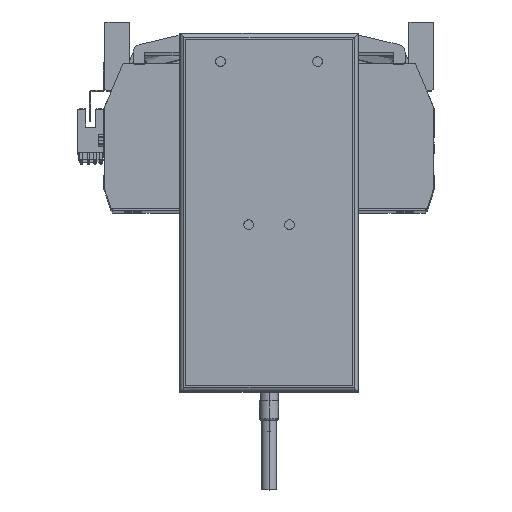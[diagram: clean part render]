
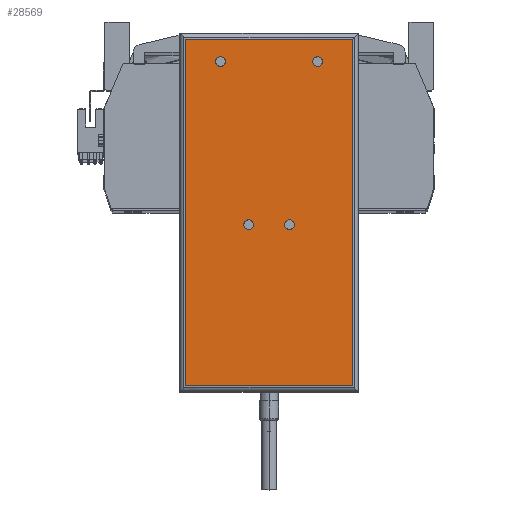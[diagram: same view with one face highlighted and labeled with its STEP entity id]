
A CAD part, top view. The second image highlights one B-rep face of the part: STEP entity #28569.
In plain terms, the highlighted planar face has unit normal (0, 0, 1) as drawn and (0, 0, -1) by its records, which use the part's own axes.
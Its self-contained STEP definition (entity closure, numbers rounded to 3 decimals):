
#548 = CIRCLE ( 'NONE', #22080, 2.5 ) ;
#571 = VECTOR ( 'NONE', #16782, 1000. ) ;
#1106 = ORIENTED_EDGE ( 'NONE', *, *, #11366, .T. ) ;
#1954 = CARTESIAN_POINT ( 'NONE',  ( -22.5, 77.75, 0. ) ) ;
#2923 = EDGE_LOOP ( 'NONE', ( #7942, #47275 ) ) ;
#3350 = CIRCLE ( 'NONE', #4645, 2.5 ) ;
#3509 = AXIS2_PLACEMENT_3D ( 'NONE', #47850, #47164, #31625 ) ;
#3654 = ORIENTED_EDGE ( 'NONE', *, *, #35723, .F. ) ;
#4507 = AXIS2_PLACEMENT_3D ( 'NONE', #5087, #25096, #32541 ) ;
#4645 = AXIS2_PLACEMENT_3D ( 'NONE', #24800, #20966, #24974 ) ;
#4830 = DIRECTION ( 'NONE',  ( -1., 0., 0. ) ) ;
#5087 = CARTESIAN_POINT ( 'NONE',  ( 10.5, -6.25, 0. ) ) ;
#5313 = CARTESIAN_POINT ( 'NONE',  ( 43., 89.25, 0. ) ) ;
#5934 = CARTESIAN_POINT ( 'NONE',  ( 8., -6.25, 0. ) ) ;
#7101 = DIRECTION ( 'NONE',  ( -1., 0., 0. ) ) ;
#7227 = VERTEX_POINT ( 'NONE', #29314 ) ;
#7230 = DIRECTION ( 'NONE',  ( 0., 0., -1. ) ) ;
#7272 = EDGE_CURVE ( 'NONE', #7227, #38202, #3350, .T. ) ;
#7351 = CARTESIAN_POINT ( 'NONE',  ( 43., -92.25, 0. ) ) ;
#7681 = VERTEX_POINT ( 'NONE', #8873 ) ;
#7942 = ORIENTED_EDGE ( 'NONE', *, *, #35407, .F. ) ;
#8249 = DIRECTION ( 'NONE',  ( 1., 0., 0. ) ) ;
#8873 = CARTESIAN_POINT ( 'NONE',  ( 43., -89.25, 0. ) ) ;
#10178 = ORIENTED_EDGE ( 'NONE', *, *, #24322, .T. ) ;
#10600 = CARTESIAN_POINT ( 'NONE',  ( -43., 89.25, 0. ) ) ;
#11366 = EDGE_CURVE ( 'NONE', #51060, #40373, #26545, .T. ) ;
#11612 = EDGE_LOOP ( 'NONE', ( #14616, #30410 ) ) ;
#11675 = EDGE_CURVE ( 'NONE', #32520, #28280, #48758, .T. ) ;
#12092 = VERTEX_POINT ( 'NONE', #49375 ) ;
#13502 = AXIS2_PLACEMENT_3D ( 'NONE', #43464, #7230, #31561 ) ;
#14052 = CIRCLE ( 'NONE', #37598, 2.5 ) ;
#14616 = ORIENTED_EDGE ( 'NONE', *, *, #7272, .F. ) ;
#14633 = EDGE_LOOP ( 'NONE', ( #32423, #3654 ) ) ;
#14987 = CARTESIAN_POINT ( 'NONE',  ( -46., -92.25, 0. ) ) ;
#15335 = LINE ( 'NONE', #44443, #571 ) ;
#16539 = DIRECTION ( 'NONE',  ( 0., 1., 0. ) ) ;
#16617 = FACE_OUTER_BOUND ( 'NONE', #25217, .T. ) ;
#16782 = DIRECTION ( 'NONE',  ( -1., 0., 0. ) ) ;
#17118 = CARTESIAN_POINT ( 'NONE',  ( 13., -6.25, 0. ) ) ;
#18108 = VERTEX_POINT ( 'NONE', #1954 ) ;
#18621 = DIRECTION ( 'NONE',  ( 0., 0., -1. ) ) ;
#19234 = AXIS2_PLACEMENT_3D ( 'NONE', #20835, #32125, #24498 ) ;
#19540 = DIRECTION ( 'NONE',  ( 0., -1., 0. ) ) ;
#19575 = CARTESIAN_POINT ( 'NONE',  ( -13., -6.25, 0. ) ) ;
#20835 = CARTESIAN_POINT ( 'NONE',  ( -10.5, -6.25, 0. ) ) ;
#20966 = DIRECTION ( 'NONE',  ( 0., 0., -1. ) ) ;
#21628 = FACE_BOUND ( 'NONE', #14633, .T. ) ;
#22051 = CIRCLE ( 'NONE', #13502, 2.5 ) ;
#22080 = AXIS2_PLACEMENT_3D ( 'NONE', #44533, #48357, #4830 ) ;
#24066 = VECTOR ( 'NONE', #37096, 1000. ) ;
#24322 = EDGE_CURVE ( 'NONE', #40373, #7681, #50971, .T. ) ;
#24498 = DIRECTION ( 'NONE',  ( -1., 0., 0. ) ) ;
#24800 = CARTESIAN_POINT ( 'NONE',  ( 25., 77.75, 0. ) ) ;
#24974 = DIRECTION ( 'NONE',  ( -1., 0., 0. ) ) ;
#25096 = DIRECTION ( 'NONE',  ( 0., 0., -1. ) ) ;
#25217 = EDGE_LOOP ( 'NONE', ( #10178, #28152, #32411, #1106 ) ) ;
#26545 = LINE ( 'NONE', #44877, #24066 ) ;
#26589 = CIRCLE ( 'NONE', #3509, 2.5 ) ;
#28072 = VECTOR ( 'NONE', #16539, 1000. ) ;
#28152 = ORIENTED_EDGE ( 'NONE', *, *, #36779, .T. ) ;
#28280 = VERTEX_POINT ( 'NONE', #17118 ) ;
#28569 = ADVANCED_FACE ( 'NONE', ( #16617, #35179, #21628, #43226, #30935 ), #47123, .F. ) ;
#29314 = CARTESIAN_POINT ( 'NONE',  ( 22.5, 77.75, 0. ) ) ;
#30207 = VERTEX_POINT ( 'NONE', #31963 ) ;
#30410 = ORIENTED_EDGE ( 'NONE', *, *, #48234, .F. ) ;
#30935 = FACE_BOUND ( 'NONE', #11612, .T. ) ;
#31561 = DIRECTION ( 'NONE',  ( -1., 0., 0. ) ) ;
#31625 = DIRECTION ( 'NONE',  ( -1., 0., 0. ) ) ;
#31674 = EDGE_LOOP ( 'NONE', ( #33102, #39412 ) ) ;
#31963 = CARTESIAN_POINT ( 'NONE',  ( -43., -89.25, 0. ) ) ;
#32125 = DIRECTION ( 'NONE',  ( 0., 0., -1. ) ) ;
#32411 = ORIENTED_EDGE ( 'NONE', *, *, #50314, .T. ) ;
#32423 = ORIENTED_EDGE ( 'NONE', *, *, #11675, .F. ) ;
#32437 = CARTESIAN_POINT ( 'NONE',  ( -43., -92.25, 0. ) ) ;
#32520 = VERTEX_POINT ( 'NONE', #5934 ) ;
#32541 = DIRECTION ( 'NONE',  ( -1., 0., 0. ) ) ;
#33102 = ORIENTED_EDGE ( 'NONE', *, *, #33928, .F. ) ;
#33928 = EDGE_CURVE ( 'NONE', #49398, #35721, #45318, .T. ) ;
#34355 = CARTESIAN_POINT ( 'NONE',  ( 27.5, 77.75, 0. ) ) ;
#34529 = DIRECTION ( 'NONE',  ( 0., 0., -1. ) ) ;
#35179 = FACE_BOUND ( 'NONE', #31674, .T. ) ;
#35407 = EDGE_CURVE ( 'NONE', #12092, #18108, #26589, .T. ) ;
#35721 = VERTEX_POINT ( 'NONE', #37620 ) ;
#35723 = EDGE_CURVE ( 'NONE', #28280, #32520, #45072, .T. ) ;
#36779 = EDGE_CURVE ( 'NONE', #7681, #30207, #15335, .T. ) ;
#37096 = DIRECTION ( 'NONE',  ( 1., 0., 0. ) ) ;
#37598 = AXIS2_PLACEMENT_3D ( 'NONE', #49945, #18621, #7101 ) ;
#37620 = CARTESIAN_POINT ( 'NONE',  ( -8., -6.25, 0. ) ) ;
#37981 = VECTOR ( 'NONE', #19540, 1000. ) ;
#38003 = EDGE_CURVE ( 'NONE', #18108, #12092, #548, .T. ) ;
#38202 = VERTEX_POINT ( 'NONE', #34355 ) ;
#38216 = AXIS2_PLACEMENT_3D ( 'NONE', #42308, #34529, #49895 ) ;
#38338 = EDGE_CURVE ( 'NONE', #35721, #49398, #22051, .T. ) ;
#39412 = ORIENTED_EDGE ( 'NONE', *, *, #38338, .F. ) ;
#40373 = VERTEX_POINT ( 'NONE', #5313 ) ;
#42308 = CARTESIAN_POINT ( 'NONE',  ( 10.5, -6.25, 0. ) ) ;
#42663 = DIRECTION ( 'NONE',  ( 0., 0., 1. ) ) ;
#43226 = FACE_BOUND ( 'NONE', #2923, .T. ) ;
#43464 = CARTESIAN_POINT ( 'NONE',  ( -10.5, -6.25, 0. ) ) ;
#43955 = AXIS2_PLACEMENT_3D ( 'NONE', #14987, #42663, #8249 ) ;
#44443 = CARTESIAN_POINT ( 'NONE',  ( -46., -89.25, 0. ) ) ;
#44533 = CARTESIAN_POINT ( 'NONE',  ( -25., 77.75, 0. ) ) ;
#44877 = CARTESIAN_POINT ( 'NONE',  ( -46., 89.25, 0. ) ) ;
#45072 = CIRCLE ( 'NONE', #38216, 2.5 ) ;
#45318 = CIRCLE ( 'NONE', #19234, 2.5 ) ;
#47123 = PLANE ( 'NONE',  #43955 ) ;
#47164 = DIRECTION ( 'NONE',  ( 0., 0., -1. ) ) ;
#47275 = ORIENTED_EDGE ( 'NONE', *, *, #38003, .F. ) ;
#47850 = CARTESIAN_POINT ( 'NONE',  ( -25., 77.75, 0. ) ) ;
#48234 = EDGE_CURVE ( 'NONE', #38202, #7227, #14052, .T. ) ;
#48357 = DIRECTION ( 'NONE',  ( 0., 0., -1. ) ) ;
#48758 = CIRCLE ( 'NONE', #4507, 2.5 ) ;
#49094 = LINE ( 'NONE', #32437, #28072 ) ;
#49375 = CARTESIAN_POINT ( 'NONE',  ( -27.5, 77.75, 0. ) ) ;
#49398 = VERTEX_POINT ( 'NONE', #19575 ) ;
#49895 = DIRECTION ( 'NONE',  ( -1., 0., 0. ) ) ;
#49945 = CARTESIAN_POINT ( 'NONE',  ( 25., 77.75, 0. ) ) ;
#50314 = EDGE_CURVE ( 'NONE', #30207, #51060, #49094, .T. ) ;
#50971 = LINE ( 'NONE', #7351, #37981 ) ;
#51060 = VERTEX_POINT ( 'NONE', #10600 ) ;
